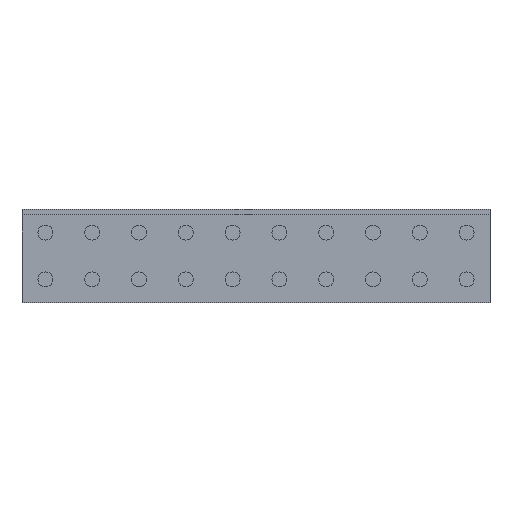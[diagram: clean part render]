
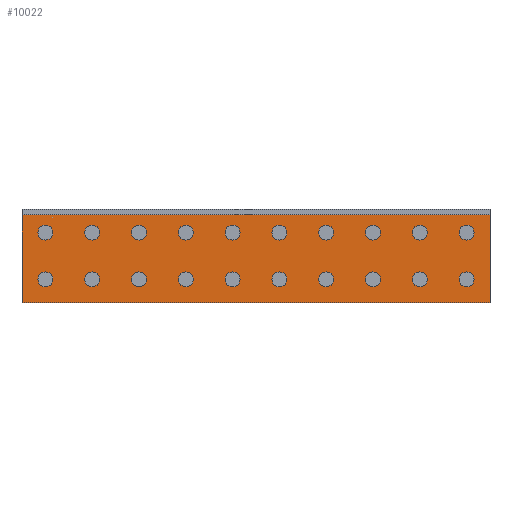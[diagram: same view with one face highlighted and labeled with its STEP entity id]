
A CAD part, front view. The second image highlights one B-rep face of the part: STEP entity #10022.
In plain terms, the highlighted planar face has unit normal (0, -1, 0).
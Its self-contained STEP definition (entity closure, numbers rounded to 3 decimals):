
#513=CIRCLE('',#10614,8.);
#514=CIRCLE('',#10615,8.);
#515=CIRCLE('',#10616,8.);
#516=CIRCLE('',#10617,8.);
#517=CIRCLE('',#10618,8.);
#518=CIRCLE('',#10619,8.);
#519=CIRCLE('',#10620,8.);
#520=CIRCLE('',#10621,8.);
#521=CIRCLE('',#10622,8.);
#522=CIRCLE('',#10623,8.);
#523=CIRCLE('',#10624,8.);
#524=CIRCLE('',#10625,8.);
#525=CIRCLE('',#10626,8.);
#526=CIRCLE('',#10627,8.);
#527=CIRCLE('',#10628,8.);
#528=CIRCLE('',#10629,8.);
#529=CIRCLE('',#10630,8.);
#530=CIRCLE('',#10631,8.);
#531=CIRCLE('',#10632,8.);
#532=CIRCLE('',#10633,8.);
#1297=FACE_BOUND('',#2547,.T.);
#1298=FACE_BOUND('',#2548,.T.);
#1299=FACE_BOUND('',#2549,.T.);
#1300=FACE_BOUND('',#2550,.T.);
#1301=FACE_BOUND('',#2551,.T.);
#1302=FACE_BOUND('',#2552,.T.);
#1303=FACE_BOUND('',#2553,.T.);
#1304=FACE_BOUND('',#2554,.T.);
#1305=FACE_BOUND('',#2555,.T.);
#1306=FACE_BOUND('',#2556,.T.);
#1307=FACE_BOUND('',#2557,.T.);
#1308=FACE_BOUND('',#2558,.T.);
#1309=FACE_BOUND('',#2559,.T.);
#1310=FACE_BOUND('',#2560,.T.);
#1311=FACE_BOUND('',#2561,.T.);
#1312=FACE_BOUND('',#2562,.T.);
#1313=FACE_BOUND('',#2563,.T.);
#1314=FACE_BOUND('',#2564,.T.);
#1315=FACE_BOUND('',#2565,.T.);
#1316=FACE_BOUND('',#2566,.T.);
#1966=FACE_OUTER_BOUND('',#2546,.T.);
#2546=EDGE_LOOP('',(#7361,#7362,#7363,#7364));
#2547=EDGE_LOOP('',(#7365));
#2548=EDGE_LOOP('',(#7366));
#2549=EDGE_LOOP('',(#7367));
#2550=EDGE_LOOP('',(#7368));
#2551=EDGE_LOOP('',(#7369));
#2552=EDGE_LOOP('',(#7370));
#2553=EDGE_LOOP('',(#7371));
#2554=EDGE_LOOP('',(#7372));
#2555=EDGE_LOOP('',(#7373));
#2556=EDGE_LOOP('',(#7374));
#2557=EDGE_LOOP('',(#7375));
#2558=EDGE_LOOP('',(#7376));
#2559=EDGE_LOOP('',(#7377));
#2560=EDGE_LOOP('',(#7378));
#2561=EDGE_LOOP('',(#7379));
#2562=EDGE_LOOP('',(#7380));
#2563=EDGE_LOOP('',(#7381));
#2564=EDGE_LOOP('',(#7382));
#2565=EDGE_LOOP('',(#7383));
#2566=EDGE_LOOP('',(#7384));
#3654=LINE('',#14852,#4258);
#3729=LINE('',#15202,#4333);
#3730=LINE('',#15204,#4334);
#3731=LINE('',#15205,#4335);
#4258=VECTOR('',#11749,10.);
#4333=VECTOR('',#12058,10.);
#4334=VECTOR('',#12059,10.);
#4335=VECTOR('',#12060,10.);
#4861=VERTEX_POINT('',#14848);
#4863=VERTEX_POINT('',#14851);
#5021=VERTEX_POINT('',#15201);
#5022=VERTEX_POINT('',#15203);
#5023=VERTEX_POINT('',#15206);
#5024=VERTEX_POINT('',#15208);
#5025=VERTEX_POINT('',#15210);
#5026=VERTEX_POINT('',#15212);
#5027=VERTEX_POINT('',#15214);
#5028=VERTEX_POINT('',#15216);
#5029=VERTEX_POINT('',#15218);
#5030=VERTEX_POINT('',#15220);
#5031=VERTEX_POINT('',#15222);
#5032=VERTEX_POINT('',#15224);
#5033=VERTEX_POINT('',#15226);
#5034=VERTEX_POINT('',#15228);
#5035=VERTEX_POINT('',#15230);
#5036=VERTEX_POINT('',#15232);
#5037=VERTEX_POINT('',#15234);
#5038=VERTEX_POINT('',#15236);
#5039=VERTEX_POINT('',#15238);
#5040=VERTEX_POINT('',#15240);
#5041=VERTEX_POINT('',#15242);
#5042=VERTEX_POINT('',#15244);
#5782=EDGE_CURVE('',#4863,#4861,#3654,.T.);
#5957=EDGE_CURVE('',#5021,#4861,#3729,.T.);
#5958=EDGE_CURVE('',#5022,#5021,#3730,.T.);
#5959=EDGE_CURVE('',#5022,#4863,#3731,.T.);
#5960=EDGE_CURVE('',#5023,#5023,#513,.T.);
#5961=EDGE_CURVE('',#5024,#5024,#514,.T.);
#5962=EDGE_CURVE('',#5025,#5025,#515,.T.);
#5963=EDGE_CURVE('',#5026,#5026,#516,.T.);
#5964=EDGE_CURVE('',#5027,#5027,#517,.T.);
#5965=EDGE_CURVE('',#5028,#5028,#518,.T.);
#5966=EDGE_CURVE('',#5029,#5029,#519,.T.);
#5967=EDGE_CURVE('',#5030,#5030,#520,.T.);
#5968=EDGE_CURVE('',#5031,#5031,#521,.T.);
#5969=EDGE_CURVE('',#5032,#5032,#522,.T.);
#5970=EDGE_CURVE('',#5033,#5033,#523,.T.);
#5971=EDGE_CURVE('',#5034,#5034,#524,.T.);
#5972=EDGE_CURVE('',#5035,#5035,#525,.T.);
#5973=EDGE_CURVE('',#5036,#5036,#526,.T.);
#5974=EDGE_CURVE('',#5037,#5037,#527,.T.);
#5975=EDGE_CURVE('',#5038,#5038,#528,.T.);
#5976=EDGE_CURVE('',#5039,#5039,#529,.T.);
#5977=EDGE_CURVE('',#5040,#5040,#530,.T.);
#5978=EDGE_CURVE('',#5041,#5041,#531,.T.);
#5979=EDGE_CURVE('',#5042,#5042,#532,.T.);
#7361=ORIENTED_EDGE('',*,*,#5782,.T.);
#7362=ORIENTED_EDGE('',*,*,#5957,.F.);
#7363=ORIENTED_EDGE('',*,*,#5958,.F.);
#7364=ORIENTED_EDGE('',*,*,#5959,.T.);
#7365=ORIENTED_EDGE('',*,*,#5960,.T.);
#7366=ORIENTED_EDGE('',*,*,#5961,.T.);
#7367=ORIENTED_EDGE('',*,*,#5962,.T.);
#7368=ORIENTED_EDGE('',*,*,#5963,.T.);
#7369=ORIENTED_EDGE('',*,*,#5964,.T.);
#7370=ORIENTED_EDGE('',*,*,#5965,.T.);
#7371=ORIENTED_EDGE('',*,*,#5966,.T.);
#7372=ORIENTED_EDGE('',*,*,#5967,.T.);
#7373=ORIENTED_EDGE('',*,*,#5968,.T.);
#7374=ORIENTED_EDGE('',*,*,#5969,.T.);
#7375=ORIENTED_EDGE('',*,*,#5970,.T.);
#7376=ORIENTED_EDGE('',*,*,#5971,.T.);
#7377=ORIENTED_EDGE('',*,*,#5972,.T.);
#7378=ORIENTED_EDGE('',*,*,#5973,.T.);
#7379=ORIENTED_EDGE('',*,*,#5974,.T.);
#7380=ORIENTED_EDGE('',*,*,#5975,.T.);
#7381=ORIENTED_EDGE('',*,*,#5976,.T.);
#7382=ORIENTED_EDGE('',*,*,#5977,.T.);
#7383=ORIENTED_EDGE('',*,*,#5978,.T.);
#7384=ORIENTED_EDGE('',*,*,#5979,.T.);
#9938=PLANE('',#10613);
#10022=ADVANCED_FACE('',(#1966,#1297,#1298,#1299,#1300,#1301,#1302,#1303,
#1304,#1305,#1306,#1307,#1308,#1309,#1310,#1311,#1312,#1313,#1314,#1315,
#1316),#9938,.T.);
#10613=AXIS2_PLACEMENT_3D('',#15200,#12056,#12057);
#10614=AXIS2_PLACEMENT_3D('',#15207,#12061,#12062);
#10615=AXIS2_PLACEMENT_3D('',#15209,#12063,#12064);
#10616=AXIS2_PLACEMENT_3D('',#15211,#12065,#12066);
#10617=AXIS2_PLACEMENT_3D('',#15213,#12067,#12068);
#10618=AXIS2_PLACEMENT_3D('',#15215,#12069,#12070);
#10619=AXIS2_PLACEMENT_3D('',#15217,#12071,#12072);
#10620=AXIS2_PLACEMENT_3D('',#15219,#12073,#12074);
#10621=AXIS2_PLACEMENT_3D('',#15221,#12075,#12076);
#10622=AXIS2_PLACEMENT_3D('',#15223,#12077,#12078);
#10623=AXIS2_PLACEMENT_3D('',#15225,#12079,#12080);
#10624=AXIS2_PLACEMENT_3D('',#15227,#12081,#12082);
#10625=AXIS2_PLACEMENT_3D('',#15229,#12083,#12084);
#10626=AXIS2_PLACEMENT_3D('',#15231,#12085,#12086);
#10627=AXIS2_PLACEMENT_3D('',#15233,#12087,#12088);
#10628=AXIS2_PLACEMENT_3D('',#15235,#12089,#12090);
#10629=AXIS2_PLACEMENT_3D('',#15237,#12091,#12092);
#10630=AXIS2_PLACEMENT_3D('',#15239,#12093,#12094);
#10631=AXIS2_PLACEMENT_3D('',#15241,#12095,#12096);
#10632=AXIS2_PLACEMENT_3D('',#15243,#12097,#12098);
#10633=AXIS2_PLACEMENT_3D('',#15245,#12099,#12100);
#11749=DIRECTION('',(1.,0.,0.));
#12056=DIRECTION('center_axis',(0.,-1.,0.));
#12057=DIRECTION('ref_axis',(-1.,0.,0.));
#12058=DIRECTION('',(0.,0.,-1.));
#12059=DIRECTION('',(1.,0.,0.));
#12060=DIRECTION('',(0.,0.,-1.));
#12061=DIRECTION('center_axis',(0.,1.,0.));
#12062=DIRECTION('ref_axis',(0.,0.,-1.));
#12063=DIRECTION('center_axis',(0.,1.,0.));
#12064=DIRECTION('ref_axis',(0.,0.,-1.));
#12065=DIRECTION('center_axis',(0.,1.,0.));
#12066=DIRECTION('ref_axis',(0.,0.,-1.));
#12067=DIRECTION('center_axis',(0.,1.,0.));
#12068=DIRECTION('ref_axis',(0.,0.,-1.));
#12069=DIRECTION('center_axis',(0.,1.,0.));
#12070=DIRECTION('ref_axis',(0.,0.,-1.));
#12071=DIRECTION('center_axis',(0.,1.,0.));
#12072=DIRECTION('ref_axis',(0.,0.,-1.));
#12073=DIRECTION('center_axis',(0.,1.,0.));
#12074=DIRECTION('ref_axis',(0.,0.,-1.));
#12075=DIRECTION('center_axis',(0.,1.,0.));
#12076=DIRECTION('ref_axis',(0.,0.,-1.));
#12077=DIRECTION('center_axis',(0.,1.,0.));
#12078=DIRECTION('ref_axis',(0.,0.,-1.));
#12079=DIRECTION('center_axis',(0.,1.,0.));
#12080=DIRECTION('ref_axis',(0.,0.,-1.));
#12081=DIRECTION('center_axis',(0.,1.,0.));
#12082=DIRECTION('ref_axis',(0.,0.,-1.));
#12083=DIRECTION('center_axis',(0.,1.,0.));
#12084=DIRECTION('ref_axis',(0.,0.,-1.));
#12085=DIRECTION('center_axis',(0.,1.,0.));
#12086=DIRECTION('ref_axis',(0.,0.,-1.));
#12087=DIRECTION('center_axis',(0.,1.,0.));
#12088=DIRECTION('ref_axis',(0.,0.,-1.));
#12089=DIRECTION('center_axis',(0.,1.,0.));
#12090=DIRECTION('ref_axis',(0.,0.,-1.));
#12091=DIRECTION('center_axis',(0.,1.,0.));
#12092=DIRECTION('ref_axis',(0.,0.,-1.));
#12093=DIRECTION('center_axis',(0.,1.,0.));
#12094=DIRECTION('ref_axis',(0.,0.,-1.));
#12095=DIRECTION('center_axis',(0.,1.,0.));
#12096=DIRECTION('ref_axis',(0.,0.,-1.));
#12097=DIRECTION('center_axis',(0.,1.,0.));
#12098=DIRECTION('ref_axis',(0.,0.,-1.));
#12099=DIRECTION('center_axis',(0.,1.,0.));
#12100=DIRECTION('ref_axis',(0.,0.,-1.));
#14848=CARTESIAN_POINT('',(250.,-500.,-94.));
#14851=CARTESIAN_POINT('',(-250.,-500.,-94.));
#14852=CARTESIAN_POINT('',(125.,-500.,-94.));
#15200=CARTESIAN_POINT('Origin',(250.,-500.,0.));
#15201=CARTESIAN_POINT('',(250.,-500.,0.));
#15202=CARTESIAN_POINT('',(250.,-500.,0.));
#15203=CARTESIAN_POINT('',(-250.,-500.,0.));
#15204=CARTESIAN_POINT('',(-250.,-500.,0.));
#15205=CARTESIAN_POINT('',(-250.,-500.,0.));
#15206=CARTESIAN_POINT('',(-225.,-500.,-11.));
#15207=CARTESIAN_POINT('Origin',(-225.,-500.,-19.));
#15208=CARTESIAN_POINT('',(-175.,-500.,-11.));
#15209=CARTESIAN_POINT('Origin',(-175.,-500.,-19.));
#15210=CARTESIAN_POINT('',(-125.,-500.,-11.));
#15211=CARTESIAN_POINT('Origin',(-125.,-500.,-19.));
#15212=CARTESIAN_POINT('',(-75.,-500.,-11.));
#15213=CARTESIAN_POINT('Origin',(-75.,-500.,-19.));
#15214=CARTESIAN_POINT('',(-25.,-500.,-11.));
#15215=CARTESIAN_POINT('Origin',(-25.,-500.,-19.));
#15216=CARTESIAN_POINT('',(25.,-500.,-11.));
#15217=CARTESIAN_POINT('Origin',(25.,-500.,-19.));
#15218=CARTESIAN_POINT('',(75.,-500.,-11.));
#15219=CARTESIAN_POINT('Origin',(75.,-500.,-19.));
#15220=CARTESIAN_POINT('',(125.,-500.,-11.));
#15221=CARTESIAN_POINT('Origin',(125.,-500.,-19.));
#15222=CARTESIAN_POINT('',(175.,-500.,-11.));
#15223=CARTESIAN_POINT('Origin',(175.,-500.,-19.));
#15224=CARTESIAN_POINT('',(225.,-500.,-11.));
#15225=CARTESIAN_POINT('Origin',(225.,-500.,-19.));
#15226=CARTESIAN_POINT('',(-225.,-500.,-61.));
#15227=CARTESIAN_POINT('Origin',(-225.,-500.,-69.));
#15228=CARTESIAN_POINT('',(-175.,-500.,-61.));
#15229=CARTESIAN_POINT('Origin',(-175.,-500.,-69.));
#15230=CARTESIAN_POINT('',(-125.,-500.,-61.));
#15231=CARTESIAN_POINT('Origin',(-125.,-500.,-69.));
#15232=CARTESIAN_POINT('',(-75.,-500.,-61.));
#15233=CARTESIAN_POINT('Origin',(-75.,-500.,-69.));
#15234=CARTESIAN_POINT('',(-25.,-500.,-61.));
#15235=CARTESIAN_POINT('Origin',(-25.,-500.,-69.));
#15236=CARTESIAN_POINT('',(25.,-500.,-61.));
#15237=CARTESIAN_POINT('Origin',(25.,-500.,-69.));
#15238=CARTESIAN_POINT('',(75.,-500.,-61.));
#15239=CARTESIAN_POINT('Origin',(75.,-500.,-69.));
#15240=CARTESIAN_POINT('',(125.,-500.,-61.));
#15241=CARTESIAN_POINT('Origin',(125.,-500.,-69.));
#15242=CARTESIAN_POINT('',(175.,-500.,-61.));
#15243=CARTESIAN_POINT('Origin',(175.,-500.,-69.));
#15244=CARTESIAN_POINT('',(225.,-500.,-61.));
#15245=CARTESIAN_POINT('Origin',(225.,-500.,-69.));
